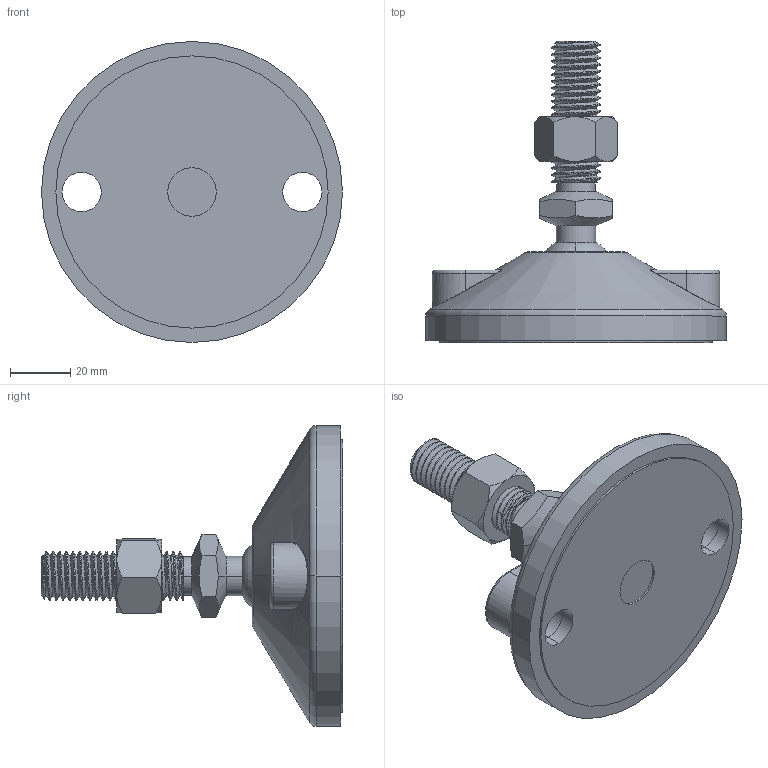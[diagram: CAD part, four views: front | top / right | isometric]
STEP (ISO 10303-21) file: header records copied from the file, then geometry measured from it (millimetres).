
FILE_DESCRIPTION (( 'STEP AP214' ), '1' );
FILE_NAME ('6.04.SPAF100.STEP', '2015-06-06T05:21:39', ( '' ), ( '' ), 'SwSTEP 2.0', 'SolidWorks 2015', '' );
FILE_SCHEMA (( 'AUTOMOTIVE_DESIGN' ));
Length unit declared in the file: millimetre
Products named in the file (1): 6.04.SPAF100
Bounding box: 99.5 x 99.7 x 99.5 mm (x, y, z)
Volume: 115934.2 mm3; surface area: 57755.4 mm2
Topology: 4 solids, 4 shells, 226 faces, 607 edges, 391 vertices
Faces by surface type: cylinder 86, plane 54, cone 36, torus 28, bspline 12, sphere 10
Entity records: 12662 total; most frequent: CARTESIAN_POINT 4850, ORIENTED_EDGE 1204, DIRECTION 1021, EDGE_CURVE 602, AXIS2_PLACEMENT_3D 426, VERTEX_POINT 388, EDGE_LOOP 242, UNCERTAINTY_MEASURE_WITH_UNIT 232
